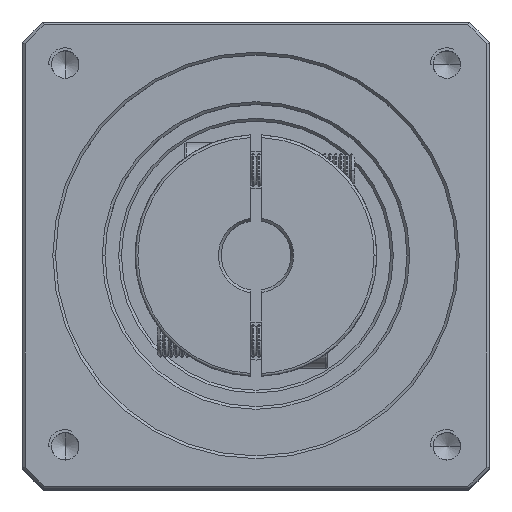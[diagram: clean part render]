
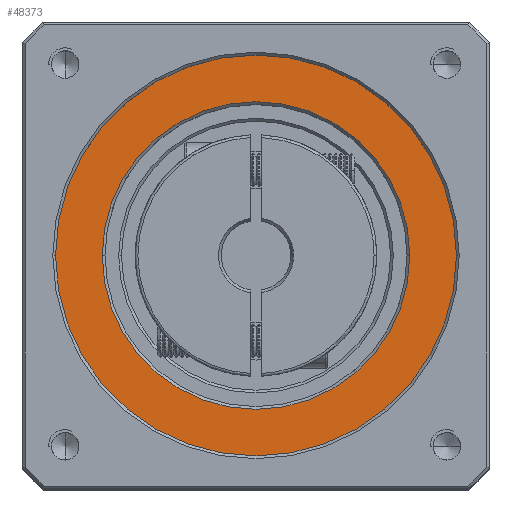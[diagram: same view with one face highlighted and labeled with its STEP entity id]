
A CAD part, top view. The second image highlights one B-rep face of the part: STEP entity #48373.
In plain terms, the highlighted planar face has unit normal (0, 0, 1).
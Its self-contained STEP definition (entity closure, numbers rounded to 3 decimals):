
#1439 = CIRCLE ( 'NONE', #66968, 28. ) ;
#5017 = CARTESIAN_POINT ( 'NONE',  ( 61.196, 4.37, 99.75 ) ) ;
#6624 = CIRCLE ( 'NONE', #15992, 28. ) ;
#6990 = CARTESIAN_POINT ( 'NONE',  ( -11.804, 4.37, 99.75 ) ) ;
#8024 = CIRCLE ( 'NONE', #42427, 36.5 ) ;
#13393 = ORIENTED_EDGE ( 'NONE', *, *, #90626, .T. ) ;
#15992 = AXIS2_PLACEMENT_3D ( 'NONE', #24224, #86991, #33311 ) ;
#16969 = AXIS2_PLACEMENT_3D ( 'NONE', #103860, #50282, #112757 ) ;
#23615 = CARTESIAN_POINT ( 'NONE',  ( 24.696, 4.37, 99.75 ) ) ;
#24152 = CARTESIAN_POINT ( 'NONE',  ( -3.304, 4.37, 99.75 ) ) ;
#24224 = CARTESIAN_POINT ( 'NONE',  ( 24.696, 4.37, 99.75 ) ) ;
#32679 = DIRECTION ( 'NONE',  ( 1., 0., 0. ) ) ;
#33311 = DIRECTION ( 'NONE',  ( 1., 0., 0. ) ) ;
#37274 = CARTESIAN_POINT ( 'NONE',  ( 24.696, 4.37, 99.75 ) ) ;
#40176 = VERTEX_POINT ( 'NONE', #5017 ) ;
#42427 = AXIS2_PLACEMENT_3D ( 'NONE', #37274, #99855, #46298 ) ;
#45939 = CARTESIAN_POINT ( 'NONE',  ( 24.696, 4.37, 99.75 ) ) ;
#46298 = DIRECTION ( 'NONE',  ( 1., 0., 0. ) ) ;
#48373 = ADVANCED_FACE ( 'NONE', ( #74333, #71526 ), #90171, .T. ) ;
#50282 = DIRECTION ( 'NONE',  ( 0., 0., 1. ) ) ;
#51649 = EDGE_CURVE ( 'NONE', #88571, #62748, #1439, .T. ) ;
#54903 = DIRECTION ( 'NONE',  ( 1., 0., 0. ) ) ;
#62748 = VERTEX_POINT ( 'NONE', #69832 ) ;
#66968 = AXIS2_PLACEMENT_3D ( 'NONE', #23615, #86387, #32679 ) ;
#69045 = EDGE_CURVE ( 'NONE', #40176, #71404, #109682, .T. ) ;
#69832 = CARTESIAN_POINT ( 'NONE',  ( 52.696, 4.37, 99.75 ) ) ;
#71404 = VERTEX_POINT ( 'NONE', #6990 ) ;
#71526 = FACE_BOUND ( 'NONE', #87614, .T. ) ;
#74333 = FACE_OUTER_BOUND ( 'NONE', #76543, .T. ) ;
#76543 = EDGE_LOOP ( 'NONE', ( #88103, #97698 ) ) ;
#86387 = DIRECTION ( 'NONE',  ( 0., 0., -1. ) ) ;
#86991 = DIRECTION ( 'NONE',  ( 0., 0., -1. ) ) ;
#87614 = EDGE_LOOP ( 'NONE', ( #13393, #108820 ) ) ;
#88103 = ORIENTED_EDGE ( 'NONE', *, *, #69045, .T. ) ;
#88571 = VERTEX_POINT ( 'NONE', #24152 ) ;
#90171 = PLANE ( 'NONE',  #115757 ) ;
#90626 = EDGE_CURVE ( 'NONE', #62748, #88571, #6624, .T. ) ;
#97698 = ORIENTED_EDGE ( 'NONE', *, *, #115290, .T. ) ;
#99855 = DIRECTION ( 'NONE',  ( 0., 0., 1. ) ) ;
#103860 = CARTESIAN_POINT ( 'NONE',  ( 24.696, 4.37, 99.75 ) ) ;
#108434 = DIRECTION ( 'NONE',  ( 0., 0., 1. ) ) ;
#108820 = ORIENTED_EDGE ( 'NONE', *, *, #51649, .T. ) ;
#109682 = CIRCLE ( 'NONE', #16969, 36.5 ) ;
#112757 = DIRECTION ( 'NONE',  ( 1., 0., 0. ) ) ;
#115290 = EDGE_CURVE ( 'NONE', #71404, #40176, #8024, .T. ) ;
#115757 = AXIS2_PLACEMENT_3D ( 'NONE', #45939, #108434, #54903 ) ;
